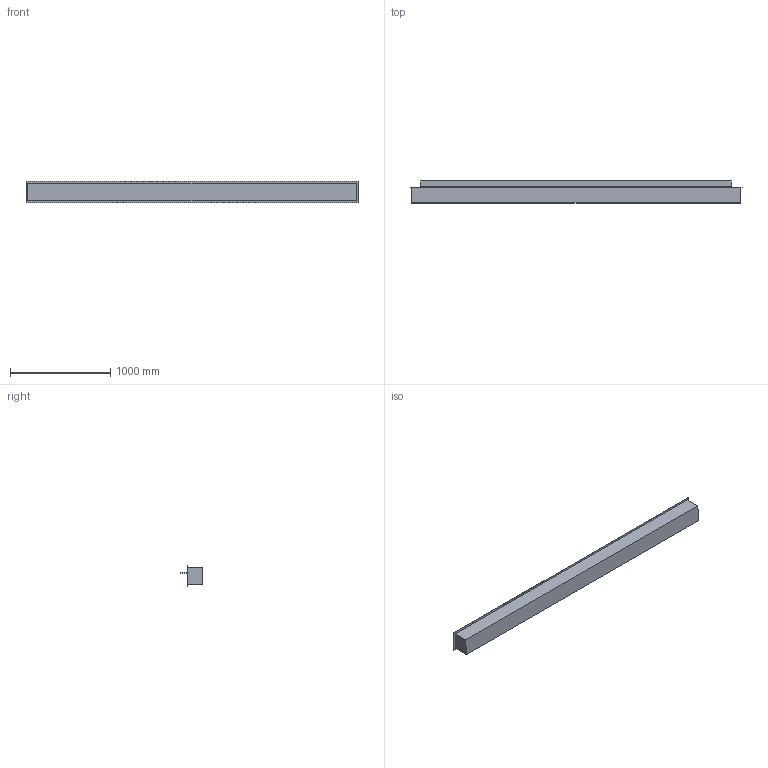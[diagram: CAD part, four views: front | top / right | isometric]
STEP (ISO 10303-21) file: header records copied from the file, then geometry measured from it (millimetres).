
FILE_DESCRIPTION (( 'STEP AP203' ), '1' );
FILE_NAME ('Denver F6 3320.STEP', '2024-03-13T09:27:29', ( '' ), ( '' ), 'SwSTEP 2.0', 'SolidWorks 2023', '' );
FILE_SCHEMA (( 'CONFIG_CONTROL_DESIGN' ));
Length unit declared in the file: millimetre
Products named in the file (1): Denver F6 3320
Bounding box: 3320 x 220 x 215 mm (x, y, z)
Volume: 93601019 mm3; surface area: 4188584.7 mm2
Topology: 8 solids, 8 shells, 68 faces, 156 edges, 104 vertices
Faces by surface type: plane 68
Entity records: 1955 total; most frequent: CARTESIAN_POINT 329, ORIENTED_EDGE 312, DIRECTION 294, EDGE_CURVE 156, LINE 156, VECTOR 156, VERTEX_POINT 104, EDGE_LOOP 74
